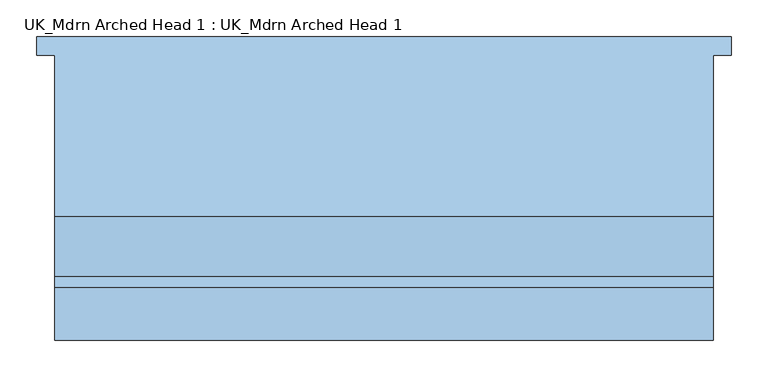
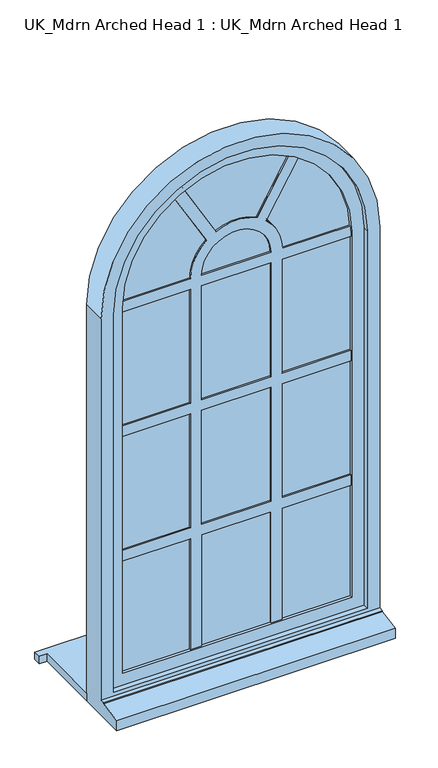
"""IFC4 building model written with IfcOpenShell, lengths in millimetres: window geometry, UK_Mdrn Arched Head 1 : UK_Mdrn Arched Head 1."""

from ifc_helpers import new_model, si_unit, point, frame, frame_2d, origin, place, context, project, spatial, polyline, circle_curve, trimmed, segment, composite_curve, outline, extrude, source, transform, mapped, element, save
from ifc_brep_helpers import plane_surface, cylinder_surface, revolved_surface, advanced_brep


def uk_mdrn_arched_head_1_uk_mdrn_arched_head_1_ec82c09f(model_context):
    return source(origin(), model_context, "Body", "SolidModel", [
        extrude(outline(polyline([(-760.0, 192.7559322), (190.0, 192.7559322), (190.0, 167.7559322), (165.0, 167.7559322), (165.0, -53.6690678), (-735.0, -53.6690678), (-735.0, 167.7559322), (-760.0, 167.7559322), (-760.0, 192.7559322)])), frame((0.0, 0.0, 760.0), z_axis=(0.0, 0.0, 1.0), x_axis=(1.0, 0.0, 0.0)), (0.0, 0.0, 1.0), 25.0),
        extrude(outline(composite_curve([segment(trimmed(circle_curve(frame_2d((2110.0, -285.0)), 380.0), [point((2429.7202458, -490.3751797))], [point((2128.0, -664.5734448))], False, "CARTESIAN"), True, "CONTINUOUS"), segment(polyline([(2128.0, -664.5734448), (2128.0, -433.3041784)]), True, "CONTINUOUS"), segment(trimmed(circle_curve(frame_2d((2128.0, -285.0)), 148.3041784), [point((2128.0, -433.3041784))], [point((2240.7887445, -381.2955266))], True, "CARTESIAN"), True, "CONTINUOUS"), segment(polyline([(2240.7887445, -381.2955266), (2429.7202458, -490.3751797)]), True, "CONTINUOUS")], self_intersect=False)), frame((0.0, -106.1690678, 0.0), z_axis=(0.0, 1.0, 0.0), x_axis=(0.0, 0.0, 1.0)), (0.0, 0.0, 1.0), 24.0),
        extrude(outline(composite_curve([segment(trimmed(circle_curve(frame_2d((2128.0, -285.0)), 148.3041784), [point((2240.7887445, -188.7044734))], [point((2128.0, -136.6958216))], True, "CARTESIAN"), True, "CONTINUOUS"), segment(polyline([(2128.0, -136.6958216), (2128.0, 94.5734448)]), True, "CONTINUOUS"), segment(trimmed(circle_curve(frame_2d((2110.0, -285.0)), 380.0), [point((2128.0, 94.5734448))], [point((2429.7202458, -79.6248203))], False, "CARTESIAN"), True, "CONTINUOUS"), segment(polyline([(2429.7202458, -79.6248203), (2240.7887445, -188.7044734)]), True, "CONTINUOUS")], self_intersect=False)), frame((0.0, -106.1690678, 0.0), z_axis=(0.0, 1.0, 0.0), x_axis=(0.0, 0.0, 1.0)), (0.0, 0.0, 1.0), 24.0),
        extrude(outline(composite_curve([segment(polyline([(2260.6984672, -218.7788091), (2447.7202458, -110.8017349)]), True, "CONTINUOUS"), segment(trimmed(circle_curve(frame_2d((2110.0, -285.0)), 380.0), [point((2447.7202458, -110.8017349))], [point((2447.7202458, -459.1982651))], False, "CARTESIAN"), True, "CONTINUOUS"), segment(polyline([(2447.7202458, -459.1982651), (2260.6984672, -351.2211909)]), True, "CONTINUOUS"), segment(trimmed(circle_curve(frame_2d((2128.0, -285.0)), 148.3041784), [point((2260.6984672, -351.2211909))], [point((2260.6984672, -218.7788091))], True, "CARTESIAN"), True, "CONTINUOUS")], self_intersect=False)), frame((0.0, -106.1690678, 0.0), z_axis=(0.0, 1.0, 0.0), x_axis=(0.0, 0.0, 1.0)), (0.0, 0.0, 1.0), 24.0),
        extrude(outline(composite_curve([segment(trimmed(circle_curve(frame_2d((2110.0, -285.0)), 380.0), [point((2429.7202458, -79.6248203))], [point((2447.7202458, -110.8017349))], False, "CARTESIAN"), True, "CONTINUOUS"), segment(polyline([(2447.7202458, -110.8017349), (2260.6984672, -218.7788091)]), True, "CONTINUOUS"), segment(trimmed(circle_curve(frame_2d((2128.0, -285.0)), 148.3041784), [point((2260.6984672, -218.7788091))], [point((2260.6984672, -351.2211909))], False, "CARTESIAN"), True, "CONTINUOUS"), segment(polyline([(2260.6984672, -351.2211909), (2447.7202458, -459.1982651)]), True, "CONTINUOUS"), segment(trimmed(circle_curve(frame_2d((2110.0, -285.0)), 380.0), [point((2447.7202458, -459.1982651))], [point((2429.7202458, -490.3751797))], False, "CARTESIAN"), True, "CONTINUOUS"), segment(polyline([(2429.7202458, -490.3751797), (2240.7887445, -381.2955266)]), True, "CONTINUOUS"), segment(trimmed(circle_curve(frame_2d((2128.0, -285.0)), 148.3041784), [point((2240.7887445, -381.2955266))], [point((2128.0, -433.3041784))], False, "CARTESIAN"), True, "CONTINUOUS"), segment(polyline([(2128.0, -433.3041784), (2128.0, -664.5734448)]), True, "CONTINUOUS"), segment(trimmed(circle_curve(frame_2d((2110.0, -285.0)), 380.0), [point((2128.0, -664.5734448))], [point((2110.0, -665.0))], False, "CARTESIAN"), True, "CONTINUOUS"), segment(polyline([(2110.0, -665.0), (2092.0, -665.0), (2092.0, -433.0), (1703.0, -433.0), (1703.0, -665.0), (1667.0, -665.0), (1667.0, -433.0), (1278.0, -433.0), (1278.0, -665.0), (1242.0, -665.0), (1242.0, -433.0), (853.0, -433.0), (853.0, -397.0), (1242.0, -397.0), (1242.0, -173.0), (853.0, -173.0), (853.0, -137.0), (1242.0, -137.0), (1242.0, 95.0), (1278.0, 95.0), (1278.0, -137.0), (1667.0, -137.0), (1667.0, 95.0), (1703.0, 95.0), (1703.0, -137.0), (2092.0, -137.0), (2092.0, 94.9854695), (2110.0, 94.9854695)]), True, "CONTINUOUS"), segment(trimmed(circle_curve(frame_2d((2110.0, -285.0)), 379.9854695), [point((2110.0, 94.9854695))], [point((2128.0, 94.558898))], False, "CARTESIAN"), True, "CONTINUOUS"), segment(polyline([(2128.0, 94.558898), (2128.0, -136.6958216)]), True, "CONTINUOUS"), segment(trimmed(circle_curve(frame_2d((2128.0, -285.0)), 148.3041784), [point((2128.0, -136.6958216))], [point((2240.7887445, -188.7044734))], False, "CARTESIAN"), True, "CONTINUOUS"), segment(polyline([(2240.7887445, -188.7044734), (2429.7202458, -79.6248203)]), True, "CONTINUOUS")], self_intersect=False), holes=[composite_curve([segment(polyline([(2128.0, -173.3041784), (2128.0, -396.6958216)]), True, "CONTINUOUS"), segment(trimmed(circle_curve(frame_2d((2128.0, -285.0)), 111.6958216), [point((2128.0, -396.6958216))], [point((2128.0, -173.3041784))], True, "CARTESIAN"), True, "CONTINUOUS")], self_intersect=False), polyline([(1278.0, -397.0), (1667.0, -397.0), (1667.0, -173.0), (1278.0, -173.0), (1278.0, -397.0)]), polyline([(1703.0, -397.0), (2092.0, -397.0), (2092.0, -173.0), (1703.0, -173.0), (1703.0, -397.0)])]), frame((0.0, -111.4190678, 0.0), z_axis=(0.0, 1.0, 0.0), x_axis=(0.0, 0.0, 1.0)), (0.0, 0.0, 1.0), 34.5),
        extrude(outline(polyline([(95.0, -82.1690678), (95.0, -106.1690678), (-137.0, -106.1690678), (-137.0, -82.1690678), (95.0, -82.1690678)])), frame((0.0, 0.0, 853.0), z_axis=(0.0, 0.0, 1.0), x_axis=(1.0, 0.0, 0.0)), (0.0, 0.0, 1.0), 389.0),
        extrude(outline(polyline([(-173.0, -82.1690678), (-173.0, -106.1690678), (-397.0, -106.1690678), (-397.0, -82.1690678), (-173.0, -82.1690678)])), frame((0.0, 0.0, 853.0), z_axis=(0.0, 0.0, 1.0), x_axis=(1.0, 0.0, 0.0)), (0.0, 0.0, 1.0), 389.0),
        extrude(outline(polyline([(-433.0, -82.1690678), (-433.0, -106.1690678), (-665.0, -106.1690678), (-665.0, -82.1690678), (-433.0, -82.1690678)])), frame((0.0, 0.0, 853.0), z_axis=(0.0, 0.0, 1.0), x_axis=(1.0, 0.0, 0.0)), (0.0, 0.0, 1.0), 389.0),
        extrude(outline(polyline([(95.0, -82.1690678), (95.0, -106.1690678), (-137.0, -106.1690678), (-137.0, -82.1690678), (95.0, -82.1690678)])), frame((0.0, 0.0, 1278.0), z_axis=(0.0, 0.0, 1.0), x_axis=(1.0, 0.0, 0.0)), (0.0, 0.0, 1.0), 389.0),
        extrude(outline(polyline([(-173.0, -82.1690678), (-173.0, -106.1690678), (-397.0, -106.1690678), (-397.0, -82.1690678), (-173.0, -82.1690678)])), frame((0.0, 0.0, 1278.0), z_axis=(0.0, 0.0, 1.0), x_axis=(1.0, 0.0, 0.0)), (0.0, 0.0, 1.0), 389.0),
        extrude(outline(polyline([(-433.0, -82.1690678), (-433.0, -106.1690678), (-665.0, -106.1690678), (-665.0, -82.1690678), (-433.0, -82.1690678)])), frame((0.0, 0.0, 1278.0), z_axis=(0.0, 0.0, 1.0), x_axis=(1.0, 0.0, 0.0)), (0.0, 0.0, 1.0), 389.0),
        extrude(outline(polyline([(95.0, -82.1690678), (95.0, -106.1690678), (-137.0, -106.1690678), (-137.0, -82.1690678), (95.0, -82.1690678)])), frame((0.0, 0.0, 1703.0), z_axis=(0.0, 0.0, 1.0), x_axis=(1.0, 0.0, 0.0)), (0.0, 0.0, 1.0), 389.0),
        extrude(outline(polyline([(-173.0, -82.1690678), (-173.0, -106.1690678), (-397.0, -106.1690678), (-397.0, -82.1690678), (-173.0, -82.1690678)])), frame((0.0, 0.0, 1703.0), z_axis=(0.0, 0.0, 1.0), x_axis=(1.0, 0.0, 0.0)), (0.0, 0.0, 1.0), 389.0),
        extrude(outline(polyline([(-433.0, -82.1690678), (-433.0, -106.1690678), (-665.0, -106.1690678), (-665.0, -82.1690678), (-433.0, -82.1690678)])), frame((0.0, 0.0, 1703.0), z_axis=(0.0, 0.0, 1.0), x_axis=(1.0, 0.0, 0.0)), (0.0, 0.0, 1.0), 389.0),
        extrude(outline(composite_curve([segment(trimmed(circle_curve(frame_2d((2128.0, -285.0)), 111.6958216), [point((2128.0, -173.3041784))], [point((2128.0, -396.6958216))], False, "CARTESIAN"), True, "CONTINUOUS"), segment(polyline([(2128.0, -396.6958216), (2128.0, -173.3041784)]), True, "CONTINUOUS")], self_intersect=False)), frame((0.0, -106.1690678, 0.0), z_axis=(0.0, 1.0, 0.0), x_axis=(0.0, 0.0, 1.0)), (0.0, 0.0, 1.0), 24.0),
        advanced_brep(
        [(125.0, -116.6690678, 2110.0), (125.0, -116.6690678, 823.0), (125.0, -71.6690678, 823.0), (125.0, -71.6690678, 2110.0), (85.0, -106.1690678, 2110.0), (85.0, -106.1690678, 863.0), (85.0, -116.6690678, 863.0), (85.0, -116.6690678, 2110.0), (95.0, -82.1690678, 2110.0), (95.0, -82.1690678, 853.0), (95.0, -106.1690678, 853.0), (95.0, -106.1690678, 2110.0), (85.0, -71.6690678, 2110.0), (85.0, -71.6690678, 863.0), (85.0, -82.1690678, 863.0), (85.0, -82.1690678, 2110.0), (-695.0, -116.6690678, 823.0), (-695.0, -71.6690678, 823.0), (-655.0, -106.1690678, 863.0), (-655.0, -116.6690678, 863.0), (-665.0, -82.1690678, 853.0), (-665.0, -106.1690678, 853.0), (-655.0, -71.6690678, 863.0), (-655.0, -82.1690678, 863.0), (-695.0, -116.6690678, 2110.0), (-695.0, -71.6690678, 2110.0), (-655.0, -106.1690678, 2110.0), (-655.0, -116.6690678, 2110.0), (-665.0, -82.1690678, 2110.0), (-665.0, -106.1690678, 2110.0), (-655.0, -71.6690678, 2110.0), (-655.0, -82.1690678, 2110.0)],
        [
            (0, 1),
            (1, 2),
            (2, 3),
            (3, 0),
            (4, 5),
            (5, 6),
            (6, 7),
            (7, 4),
            (8, 9),
            (9, 10),
            (10, 11),
            (11, 8),
            (12, 13),
            (13, 14),
            (14, 15),
            (15, 12),
            (1, 16),
            (16, 17),
            (17, 2),
            (5, 18),
            (18, 19),
            (19, 6),
            (9, 20),
            (20, 21),
            (21, 10),
            (13, 22),
            (22, 23),
            (23, 14),
            (16, 24),
            (24, 25),
            (25, 17),
            (18, 26),
            (26, 27),
            (27, 19),
            (20, 28),
            (28, 29),
            (29, 21),
            (22, 30),
            (30, 31),
            (31, 23),
            (3, 25, circle_curve(frame((-285.0, -71.6690678, 2110.0), z_axis=(0.0, -1.0, 0.0), x_axis=(-1.0, 0.0, 0.0)), 410.0)),
            (24, 0, circle_curve(frame((-285.0, -116.6690678, 2110.0), z_axis=(0.0, 1.0, 0.0), x_axis=(-1.0, 0.0, 0.0)), 410.0)),
            (27, 7, circle_curve(frame((-285.0, -116.6690678, 2110.0), z_axis=(0.0, 1.0, 0.0), x_axis=(-1.0, 0.0, 0.0)), 370.0)),
            (26, 4, circle_curve(frame((-285.0, -106.1690678, 2110.0), z_axis=(0.0, 1.0, 0.0), x_axis=(-1.0, 0.0, 0.0)), 370.0)),
            (29, 11, circle_curve(frame((-285.0, -106.1690678, 2110.0), z_axis=(0.0, 1.0, 0.0), x_axis=(-1.0, 0.0, 0.0)), 380.0)),
            (28, 8, circle_curve(frame((-285.0, -82.1690678, 2110.0), z_axis=(0.0, 1.0, 0.0), x_axis=(-1.0, 0.0, 0.0)), 380.0)),
            (31, 15, circle_curve(frame((-285.0, -82.1690678, 2110.0), z_axis=(0.0, 1.0, 0.0), x_axis=(-1.0, 0.0, 0.0)), 370.0)),
            (30, 12, circle_curve(frame((-285.0, -71.6690678, 2110.0), z_axis=(0.0, 1.0, 0.0), x_axis=(-1.0, 0.0, 0.0)), 370.0)),
        ],
        [
            plane_surface(frame((125.0, -71.6690678, 2110.0), z_axis=(1.0, 0.0, 0.0), x_axis=(0.0, 0.0, -1.0))),
            plane_surface(frame((85.0, -116.6690678, 2110.0), z_axis=(-1.0, 0.0, 0.0), x_axis=(0.0, 0.0, -1.0))),
            plane_surface(frame((95.0, -106.1690678, 2110.0), z_axis=(-1.0, 0.0, 0.0), x_axis=(0.0, 0.0, -1.0))),
            plane_surface(frame((85.0, -82.1690678, 2110.0), z_axis=(-1.0, 0.0, 0.0), x_axis=(0.0, 0.0, -1.0))),
            plane_surface(frame((125.0, -71.6690678, 823.0), z_axis=(0.0, 0.0, -1.0), x_axis=(-1.0, 0.0, 0.0))),
            plane_surface(frame((85.0, -116.6690678, 863.0), z_axis=(0.0, 0.0, 1.0), x_axis=(-1.0, 0.0, 0.0))),
            plane_surface(frame((95.0, -106.1690678, 853.0), z_axis=(0.0, 0.0, 1.0), x_axis=(-1.0, 0.0, 0.0))),
            plane_surface(frame((85.0, -82.1690678, 863.0), z_axis=(0.0, 0.0, 1.0), x_axis=(-1.0, 0.0, 0.0))),
            plane_surface(frame((-695.0, -71.6690678, 823.0), z_axis=(-1.0, 0.0, 0.0), x_axis=(0.0, 0.0, 1.0))),
            plane_surface(frame((-655.0, -116.6690678, 863.0), z_axis=(1.0, 0.0, 0.0), x_axis=(0.0, 0.0, 1.0))),
            plane_surface(frame((-665.0, -106.1690678, 853.0), z_axis=(1.0, 0.0, 0.0), x_axis=(0.0, 0.0, 1.0))),
            plane_surface(frame((-655.0, -82.1690678, 863.0), z_axis=(1.0, 0.0, 0.0), x_axis=(0.0, 0.0, 1.0))),
            cylinder_surface(frame((-285.0, -116.6690678, 2110.0), z_axis=(0.0, -1.0, 0.0), x_axis=(-1.0, 0.0, 0.0)), 410.0),
            plane_surface(frame((-285.0, -116.6690678, 2110.0), z_axis=(0.0, -1.0, 0.0), x_axis=(-1.0, 0.0, 0.0))),
            revolved_surface(polyline([(-655.0, -116.6690678, 2110.0), (-655.0, -106.1690678, 2110.0)]), (-285.0, -116.6690678, 2110.0), (0.0, -1.0, 0.0)),
            plane_surface(frame((-285.0, -106.1690678, 2110.0), z_axis=(0.0, 1.0, 0.0), x_axis=(-1.0, 0.0, 0.0))),
            revolved_surface(polyline([(-665.0, -106.1690678, 2110.0), (-665.0, -82.1690678, 2110.0)]), (-285.0, -116.6690678, 2110.0), (0.0, -1.0, 0.0)),
            plane_surface(frame((-285.0, -82.1690678, 2110.0), z_axis=(0.0, -1.0, 0.0), x_axis=(-1.0, 0.0, 0.0))),
            revolved_surface(polyline([(-655.0, -82.1690678, 2110.0), (-655.0, -71.6690678, 2110.0)]), (-285.0, -116.6690678, 2110.0), (0.0, -1.0, 0.0)),
            plane_surface(frame((-285.0, -71.6690678, 2110.0), z_axis=(0.0, 1.0, 0.0), x_axis=(-1.0, 0.0, 0.0))),
        ],
        [
            (0, [[1, 2, 3, 4]]),
            (1, [[5, 6, 7, 8]]),
            (2, [[9, 10, 11, 12]]),
            (3, [[13, 14, 15, 16]]),
            (4, [[17, 18, 19, -2]]),
            (5, [[20, 21, 22, -6]]),
            (6, [[23, 24, 25, -10]]),
            (7, [[26, 27, 28, -14]]),
            (8, [[29, 30, 31, -18]]),
            (9, [[32, 33, 34, -21]]),
            (10, [[35, 36, 37, -24]]),
            (11, [[38, 39, 40, -27]]),
            (12, [[-4, 41, -30, 42]]),
            (13, [[-1, -42, -29, -17], [-7, -22, -34, 43]]),
            (14, [[-8, -43, -33, 44]]),
            (15, [[-11, -25, -37, 45], [-5, -44, -32, -20]]),
            (16, [[-12, -45, -36, 46]]),
            (17, [[-9, -46, -35, -23], [-15, -28, -40, 47]]),
            (18, [[-16, -47, -39, 48]]),
            (19, [[-3, -19, -31, -41], [-13, -48, -38, -26]]),
        ],
    ),
        advanced_brep(
        [(-735.0, -53.6690678, 760.0), (-735.0, -53.6690678, 2110.0), (165.0, -53.6690678, 2110.0), (165.0, -53.6690678, 760.0), (-675.0, -53.6690678, 2110.0), (-675.0, -53.6690678, 835.0), (105.0, -53.6690678, 835.0), (105.0, -53.6690678, 2110.0), (-735.0, -222.1690678, 760.0), (-735.0, -222.1690678, 793.8088847), (-735.0, -149.6690678, 806.5550779), (-735.0, -149.6690678, 810.2709278), (-735.0, -134.6690678, 811.0), (-735.0, -134.6690678, 2110.0), (165.0, -134.6690678, 811.0), (165.0, -134.6690678, 2110.0), (-695.0, -134.6690678, 2110.0), (125.0, -134.6690678, 2110.0), (125.0, -134.6690678, 823.0), (-695.0, -134.6690678, 823.0), (-695.0, -71.6690678, 823.0), (-695.0, -71.6690678, 2110.0), (125.0, -71.6690678, 823.0), (125.0, -71.6690678, 2110.0), (-675.0, -71.6690678, 2110.0), (105.0, -71.6690678, 2110.0), (105.0, -71.6690678, 835.0), (-675.0, -71.6690678, 835.0), (165.0, -149.6690678, 810.2709278), (165.0, -149.6690678, 806.5550779), (165.0, -222.1690678, 793.8088847), (165.0, -222.1690678, 760.0)],
        [
            (0, 1),
            (1, 2, circle_curve(frame((-285.0, -53.6690678, 2110.0), z_axis=(0.0, 1.0, 0.0), x_axis=(-1.0, 0.0, 0.0)), 450.0)),
            (2, 3),
            (3, 0),
            (4, 5),
            (5, 6),
            (6, 7),
            (7, 4, circle_curve(frame((-285.0, -53.6690678, 2110.0), z_axis=(0.0, -1.0, 0.0), x_axis=(-1.0, 0.0, 0.0)), 390.0)),
            (0, 8),
            (8, 9),
            (9, 10),
            (10, 11),
            (11, 12),
            (12, 13),
            (13, 1),
            (12, 14),
            (14, 15),
            (15, 13, circle_curve(frame((-285.0, -134.6690678, 2110.0), z_axis=(0.0, -1.0, 0.0), x_axis=(-1.0, 0.0, 0.0)), 450.0)),
            (16, 17, circle_curve(frame((-285.0, -134.6690678, 2110.0), z_axis=(0.0, 1.0, 0.0), x_axis=(-1.0, 0.0, 0.0)), 410.0)),
            (17, 18),
            (18, 19),
            (19, 16),
            (19, 20),
            (20, 21),
            (21, 16),
            (20, 22),
            (22, 23),
            (23, 21, circle_curve(frame((-285.0, -71.6690678, 2110.0), z_axis=(0.0, -1.0, 0.0), x_axis=(-1.0, 0.0, 0.0)), 410.0)),
            (24, 25, circle_curve(frame((-285.0, -71.6690678, 2110.0), z_axis=(0.0, 1.0, 0.0), x_axis=(-1.0, 0.0, 0.0)), 390.0)),
            (25, 26),
            (26, 27),
            (27, 24),
            (27, 5),
            (4, 24),
            (15, 2),
            (23, 17),
            (7, 25),
            (14, 28),
            (28, 29),
            (29, 30),
            (30, 31),
            (31, 3),
            (22, 18),
            (6, 26),
            (31, 8),
            (30, 9),
            (29, 10),
            (28, 11),
        ],
        [
            plane_surface(frame((-675.0, -53.6690678, 823.0), z_axis=(0.0, 1.0, 0.0), x_axis=(0.0, 0.0, 1.0))),
            plane_surface(frame((-735.0, -53.6690678, 823.0), z_axis=(-1.0, 0.0, 0.0), x_axis=(0.0, 0.0, 1.0))),
            plane_surface(frame((-735.0, -134.6690678, 823.0), z_axis=(0.0, -1.0, 0.0), x_axis=(0.0, 0.0, 1.0))),
            plane_surface(frame((-695.0, -134.6690678, 823.0), z_axis=(1.0, 0.0, 0.0), x_axis=(0.0, 0.0, 1.0))),
            plane_surface(frame((-695.0, -71.6690678, 823.0), z_axis=(0.0, -1.0, 0.0), x_axis=(0.0, 0.0, 1.0))),
            plane_surface(frame((-675.0, -71.6690678, 823.0), z_axis=(1.0, 0.0, 0.0), x_axis=(0.0, 0.0, 1.0))),
            cylinder_surface(frame((-285.0, -71.6690678, 2110.0), z_axis=(0.0, -1.0, 0.0), x_axis=(-1.0, 0.0, 0.0)), 450.0),
            revolved_surface(polyline([(-695.0, -134.6690678, 2110.0), (-695.0, -71.6690678, 2110.0)]), (-285.0, -71.6690678, 2110.0), (0.0, -1.0, 0.0)),
            revolved_surface(polyline([(-675.0, -71.6690678, 2110.0), (-675.0, -53.6690678, 2110.0)]), (-285.0, -71.6690678, 2110.0), (0.0, -1.0, 0.0)),
            plane_surface(frame((165.0, -53.6690678, 2110.0), z_axis=(1.0, 0.0, 0.0), x_axis=(0.0, 0.0, -1.0))),
            plane_surface(frame((125.0, -134.6690678, 2110.0), z_axis=(-1.0, 0.0, 0.0), x_axis=(0.0, 0.0, -1.0))),
            plane_surface(frame((105.0, -71.6690678, 2110.0), z_axis=(-1.0, 0.0, 0.0), x_axis=(0.0, 0.0, -1.0))),
            plane_surface(frame((165.0, -53.6690678, 760.0), z_axis=(0.0, 0.0, -1.0), x_axis=(-1.0, 0.0, 0.0))),
            plane_surface(frame((165.0, -222.1690678, 760.0), z_axis=(0.0, -1.0, 0.0), x_axis=(-1.0, 0.0, 0.0))),
            plane_surface(frame((165.0, -222.1690678, 793.8088847), z_axis=(0.0, -0.17315391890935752, 0.9848947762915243), x_axis=(-1.0, 0.0, 0.0))),
            plane_surface(frame((165.0, -149.6690678, 806.5550779), z_axis=(0.0, -1.0, 0.0), x_axis=(-1.0, 0.0, 0.0))),
            plane_surface(frame((165.0, -149.6690678, 810.2709278), z_axis=(0.0, -0.04854750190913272, 0.9988208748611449), x_axis=(-1.0, 0.0, 0.0))),
            plane_surface(frame((165.0, -134.6690678, 823.0), z_axis=(0.0, 0.0, 1.0), x_axis=(-1.0, 0.0, 0.0))),
            plane_surface(frame((165.0, -71.6690678, 835.0), z_axis=(0.0, 0.0, 1.0), x_axis=(-1.0, 0.0, 0.0))),
        ],
        [
            (0, [[1, 2, 3, 4], [5, 6, 7, 8]]),
            (1, [[9, 10, 11, 12, 13, 14, 15, -1]]),
            (2, [[16, 17, 18, -14], [19, 20, 21, 22]]),
            (3, [[23, 24, 25, -22]]),
            (4, [[-24, 26, 27, 28], [29, 30, 31, 32]]),
            (5, [[-32, 33, -5, 34]]),
            (6, [[-15, -18, 35, -2]]),
            (7, [[-25, -28, 36, -19]]),
            (8, [[37, -29, -34, -8]]),
            (9, [[38, 39, 40, 41, 42, -3, -35, -17]]),
            (10, [[-36, -27, 43, -20]]),
            (11, [[-7, 44, -30, -37]]),
            (12, [[45, -9, -4, -42]]),
            (13, [[46, -10, -45, -41]]),
            (14, [[47, -11, -46, -40]]),
            (15, [[48, -12, -47, -39]]),
            (16, [[-16, -13, -48, -38]]),
            (17, [[-23, -21, -43, -26]]),
            (18, [[-33, -31, -44, -6]]),
        ],
    ),
    ])


if __name__ == "__main__":
    model = new_model("IFC4")
    model_context = context("Model", 3, world=origin())
    ifc_project = project(units=[si_unit("LENGTHUNIT", "METRE", prefix="MILLI")], contexts=[model_context])
    site = spatial("IfcSite", under=ifc_project)
    building = spatial("IfcBuilding", under=site)
    placement = place(None, origin())
    uk_mdrn_arched_head_1_uk_mdrn_arched_head_1_shape = uk_mdrn_arched_head_1_uk_mdrn_arched_head_1_ec82c09f(model_context)
    element("IfcWindow", 1, ObjectType="UK_Mdrn Arched Head 1 : UK_Mdrn Arched Head 1", at=placement, inside=building, context=model_context, shape_type="MappedRepresentation", body=[
        mapped(uk_mdrn_arched_head_1_uk_mdrn_arched_head_1_shape, transform((0.0, 0.0, 0.0), x_axis=(1.0, 0.0, 0.0), y_axis=(0.0, 1.0, 0.0), z_axis=(0.0, 0.0, 1.0))),
    ])
    save(model, "model.ifc")
